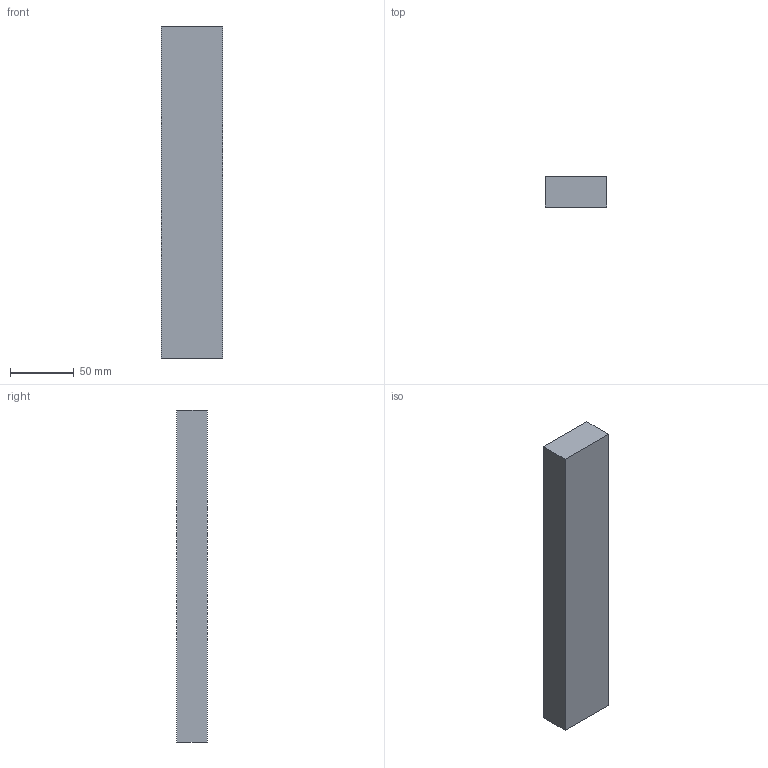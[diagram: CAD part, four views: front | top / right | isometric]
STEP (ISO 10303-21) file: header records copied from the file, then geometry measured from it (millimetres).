
FILE_DESCRIPTION (( 'STEP AP203' ), '1' );
FILE_NAME ('Tasseau_260_Porte.STEP', '2026-06-24T07:29:50', ( '' ), ( '' ), 'SwSTEP 2.0', 'SolidWorks 2024', '' );
FILE_SCHEMA (( 'CONFIG_CONTROL_DESIGN' ));
Length unit declared in the file: millimetre
Products named in the file (1): Tasseau_260_Porte
Bounding box: 48 x 24 x 260 mm (x, y, z)
Volume: 299520 mm3; surface area: 39744 mm2
Topology: 1 solids, 1 shells, 6 faces, 12 edges, 8 vertices
Faces by surface type: plane 6
Entity records: 231 total; most frequent: CARTESIAN_POINT 27, DIRECTION 26, ORIENTED_EDGE 24, EDGE_CURVE 12, VECTOR 12, LINE 12, PERSON_AND_ORGANIZATION 8, VERTEX_POINT 8
